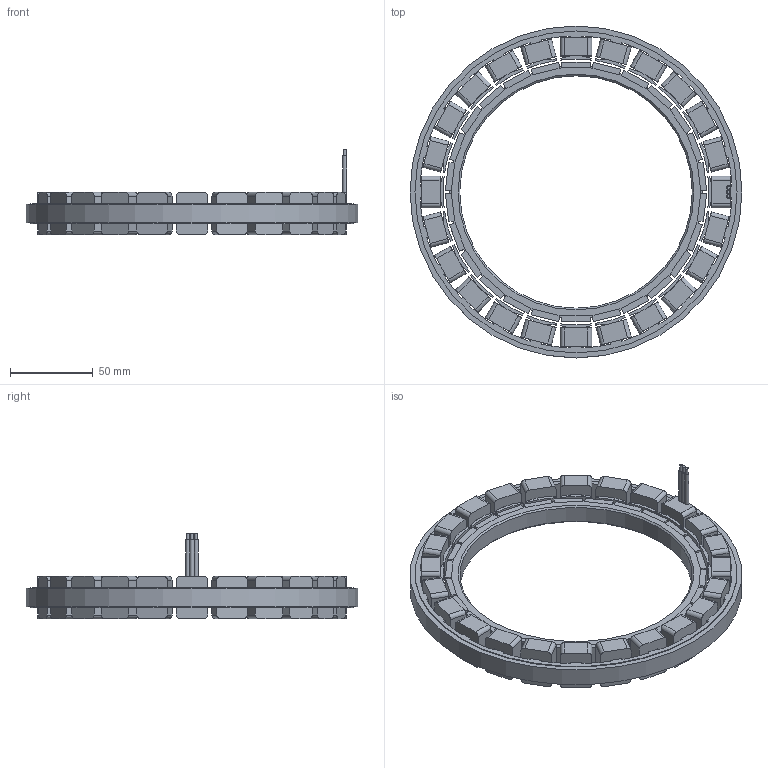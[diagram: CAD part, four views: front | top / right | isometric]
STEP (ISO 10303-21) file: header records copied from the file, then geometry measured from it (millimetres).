
FILE_DESCRIPTION (( 'STEP AP214' ), '1' );
FILE_NAME ('20025萇儂.STEP', '2024-08-29T03:12:24', ( '' ), ( '' ), 'SwSTEP 2.0', 'SolidWorks 2023', '' );
FILE_SCHEMA (( 'AUTOMOTIVE_DESIGN' ));
Length unit declared in the file: millimetre
Products named in the file (1): 20025电机
Bounding box: 200 x 200 x 51.6 mm (x, y, z)
Surface area: 98320.5 mm2 (no closed solid volume)
Topology: 0 solids, 55 shells, 546 faces, 2118 edges, 1594 vertices
Faces by surface type: plane 386, cylinder 158, cone 2
Full cylindrical faces by diameter (mm): 1.8 x3, 2.5 x3, 140 x1, 194 x2, 200 x1
Entity records: 22121 total; most frequent: CARTESIAN_POINT 4239, DIRECTION 3750, ORIENTED_EDGE 3297, EDGE_CURVE 2102, VERTEX_POINT 1590, LINE 1548, VECTOR 1548, AXIS2_PLACEMENT_3D 1101
